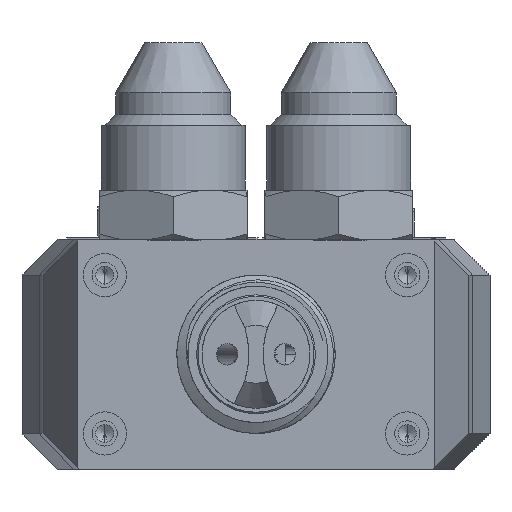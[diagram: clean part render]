
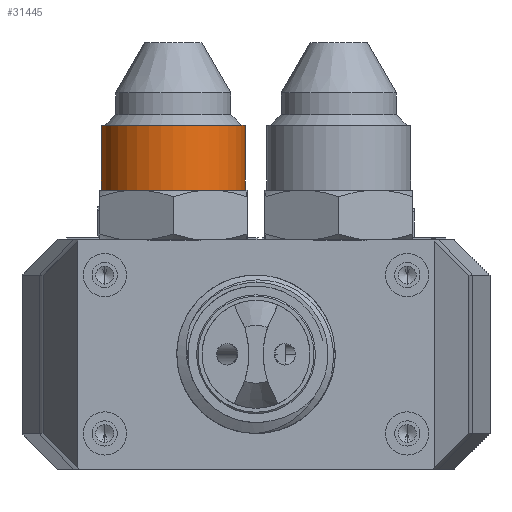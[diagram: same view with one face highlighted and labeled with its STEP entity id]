
A CAD part, front view. The second image highlights one B-rep face of the part: STEP entity #31445.
In plain terms, the highlighted cylindrical face has radius 10 mm (diameter 20 mm), a partial arc.
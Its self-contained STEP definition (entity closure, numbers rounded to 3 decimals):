
#3 = ORIENTED_EDGE ( 'NONE', *, *, #5358, .F. ) ;
#1160 = VERTEX_POINT ( 'NONE', #32281 ) ;
#1603 = DIRECTION ( 'NONE',  ( 0., 0., -1. ) ) ;
#4068 = CARTESIAN_POINT ( 'NONE',  ( -84.455, -144.23, 1021.303 ) ) ;
#5358 = EDGE_CURVE ( 'NONE', #35588, #1160, #27099, .T. ) ;
#5446 = VERTEX_POINT ( 'NONE', #13119 ) ;
#6297 = DIRECTION ( 'NONE',  ( 0., 0., 1. ) ) ;
#8206 = DIRECTION ( 'NONE',  ( 0., 0., 1. ) ) ;
#9052 = VECTOR ( 'NONE', #6297, 1000. ) ;
#12772 = AXIS2_PLACEMENT_3D ( 'NONE', #36190, #1603, #44682 ) ;
#13119 = CARTESIAN_POINT ( 'NONE',  ( -74.455, -144.23, 1021.303 ) ) ;
#13376 = CIRCLE ( 'NONE', #45548, 10. ) ;
#14985 = AXIS2_PLACEMENT_3D ( 'NONE', #26867, #26619, #42594 ) ;
#15512 = EDGE_CURVE ( 'NONE', #5446, #30389, #33167, .T. ) ;
#18890 = EDGE_LOOP ( 'NONE', ( #3, #38591, #32304, #33659 ) ) ;
#19618 = CARTESIAN_POINT ( 'NONE',  ( -94.455, -144.23, 1052.575 ) ) ;
#19856 = DIRECTION ( 'NONE',  ( 1., 0., 0. ) ) ;
#23575 = EDGE_CURVE ( 'NONE', #35588, #5446, #13376, .T. ) ;
#26619 = DIRECTION ( 'NONE',  ( 0., 0., 1. ) ) ;
#26867 = CARTESIAN_POINT ( 'NONE',  ( -84.455, -144.23, 1052.575 ) ) ;
#27099 = LINE ( 'NONE', #19618, #38833 ) ;
#27409 = EDGE_CURVE ( 'NONE', #30389, #1160, #30131, .T. ) ;
#29031 = CARTESIAN_POINT ( 'NONE',  ( -94.455, -144.23, 1021.303 ) ) ;
#29281 = CARTESIAN_POINT ( 'NONE',  ( -74.455, -144.23, 1052.575 ) ) ;
#29981 = FACE_OUTER_BOUND ( 'NONE', #18890, .T. ) ;
#30131 = CIRCLE ( 'NONE', #12772, 10. ) ;
#30389 = VERTEX_POINT ( 'NONE', #45695 ) ;
#30991 = CYLINDRICAL_SURFACE ( 'NONE', #14985, 10. ) ;
#31445 = ADVANCED_FACE ( 'NONE', ( #29981 ), #30991, .T. ) ;
#32281 = CARTESIAN_POINT ( 'NONE',  ( -94.455, -144.23, 1030.303 ) ) ;
#32304 = ORIENTED_EDGE ( 'NONE', *, *, #15512, .T. ) ;
#33167 = LINE ( 'NONE', #29281, #9052 ) ;
#33659 = ORIENTED_EDGE ( 'NONE', *, *, #27409, .T. ) ;
#35356 = DIRECTION ( 'NONE',  ( 0., 0., 1. ) ) ;
#35588 = VERTEX_POINT ( 'NONE', #29031 ) ;
#36190 = CARTESIAN_POINT ( 'NONE',  ( -84.455, -144.23, 1030.303 ) ) ;
#38591 = ORIENTED_EDGE ( 'NONE', *, *, #23575, .T. ) ;
#38833 = VECTOR ( 'NONE', #35356, 1000. ) ;
#42594 = DIRECTION ( 'NONE',  ( 1., 0., 0. ) ) ;
#44682 = DIRECTION ( 'NONE',  ( 1., 0., 0. ) ) ;
#45548 = AXIS2_PLACEMENT_3D ( 'NONE', #4068, #8206, #19856 ) ;
#45695 = CARTESIAN_POINT ( 'NONE',  ( -74.455, -144.23, 1030.303 ) ) ;
